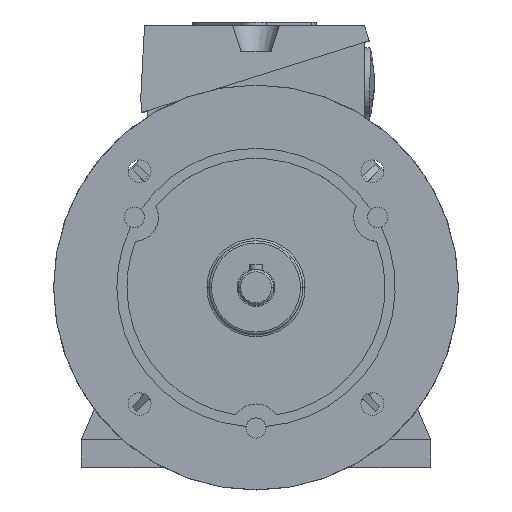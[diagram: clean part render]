
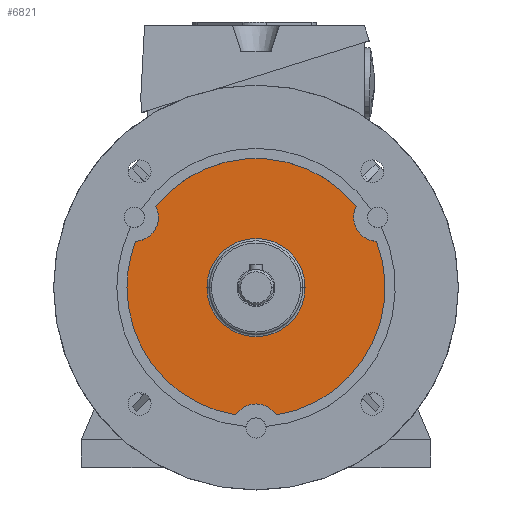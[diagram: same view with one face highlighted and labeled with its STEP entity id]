
A CAD part, top view. The second image highlights one B-rep face of the part: STEP entity #6821.
In plain terms, the highlighted planar face has unit normal (0, 0, 1).
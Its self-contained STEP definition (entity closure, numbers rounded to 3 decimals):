
#225 = AXIS2_PLACEMENT_3D ( 'NONE', #3845, #5941, #7086 ) ;
#395 = DIRECTION ( 'NONE',  ( -1., 0., 0. ) ) ;
#409 = DIRECTION ( 'NONE',  ( 0., 0., -1. ) ) ;
#434 = DIRECTION ( 'NONE',  ( 0., 0., -1. ) ) ;
#872 = ORIENTED_EDGE ( 'NONE', *, *, #7423, .F. ) ;
#996 = VERTEX_POINT ( 'NONE', #1525 ) ;
#1086 = DIRECTION ( 'NONE',  ( 1., 0., 0. ) ) ;
#1162 = AXIS2_PLACEMENT_3D ( 'NONE', #9170, #11286, #7216 ) ;
#1166 = VERTEX_POINT ( 'NONE', #2189 ) ;
#1298 = CARTESIAN_POINT ( 'NONE',  ( 0., 0., 14. ) ) ;
#1525 = CARTESIAN_POINT ( 'NONE',  ( 47.619, 18.26, 14. ) ) ;
#1542 = ORIENTED_EDGE ( 'NONE', *, *, #8120, .T. ) ;
#1582 = CIRCLE ( 'NONE', #13283, 51. ) ;
#1758 = CARTESIAN_POINT ( 'NONE',  ( -7.995, -50.369, 14. ) ) ;
#1867 = EDGE_CURVE ( 'NONE', #13340, #9865, #5189, .T. ) ;
#2189 = CARTESIAN_POINT ( 'NONE',  ( -39.623, 32.109, 14. ) ) ;
#2611 = ORIENTED_EDGE ( 'NONE', *, *, #11092, .F. ) ;
#2934 = DIRECTION ( 'NONE',  ( 0., 0., -1. ) ) ;
#3118 = CARTESIAN_POINT ( 'NONE',  ( 0., 51., 14. ) ) ;
#3393 = CARTESIAN_POINT ( 'NONE',  ( 0., 0., 14. ) ) ;
#3574 = DIRECTION ( 'NONE',  ( 1., 0., 0. ) ) ;
#3582 = AXIS2_PLACEMENT_3D ( 'NONE', #11874, #409, #9766 ) ;
#3621 = AXIS2_PLACEMENT_3D ( 'NONE', #11138, #434, #3574 ) ;
#3845 = CARTESIAN_POINT ( 'NONE',  ( 0., 0., 14. ) ) ;
#3994 = VERTEX_POINT ( 'NONE', #8232 ) ;
#4057 = CIRCLE ( 'NONE', #7718, 9.5 ) ;
#4228 = DIRECTION ( 'NONE',  ( 1., 0., 0. ) ) ;
#4236 = DIRECTION ( 'NONE',  ( 0., 0., -1. ) ) ;
#4367 = PLANE ( 'NONE',  #6216 ) ;
#4406 = DIRECTION ( 'NONE',  ( -1., 0., 0. ) ) ;
#4436 = ORIENTED_EDGE ( 'NONE', *, *, #9588, .T. ) ;
#4665 = AXIS2_PLACEMENT_3D ( 'NONE', #12167, #13260, #11085 ) ;
#4897 = EDGE_LOOP ( 'NONE', ( #8677, #7777, #4436, #6380, #2611, #872, #1542, #12049 ) ) ;
#5189 = CIRCLE ( 'NONE', #9940, 19.4 ) ;
#5264 = CARTESIAN_POINT ( 'NONE',  ( 7.995, -50.369, 14. ) ) ;
#5290 = VERTEX_POINT ( 'NONE', #10629 ) ;
#5314 = FACE_OUTER_BOUND ( 'NONE', #4897, .T. ) ;
#5321 = AXIS2_PLACEMENT_3D ( 'NONE', #13243, #2934, #7080 ) ;
#5351 = DIRECTION ( 'NONE',  ( 0., 0., -1. ) ) ;
#5511 = CARTESIAN_POINT ( 'NONE',  ( -47.619, 18.26, 14. ) ) ;
#5642 = DIRECTION ( 'NONE',  ( 0., 0., -1. ) ) ;
#5941 = DIRECTION ( 'NONE',  ( 0., 0., -1. ) ) ;
#6010 = CIRCLE ( 'NONE', #3621, 9.5 ) ;
#6216 = AXIS2_PLACEMENT_3D ( 'NONE', #3118, #10442, #4228 ) ;
#6254 = CARTESIAN_POINT ( 'NONE',  ( -48.064, 27.75, 14. ) ) ;
#6318 = FACE_BOUND ( 'NONE', #10915, .T. ) ;
#6380 = ORIENTED_EDGE ( 'NONE', *, *, #6860, .T. ) ;
#6821 = ADVANCED_FACE ( 'NONE', ( #5314, #6318 ), #4367, .T. ) ;
#6860 = EDGE_CURVE ( 'NONE', #3994, #6910, #4057, .T. ) ;
#6910 = VERTEX_POINT ( 'NONE', #5511 ) ;
#7043 = VERTEX_POINT ( 'NONE', #1758 ) ;
#7080 = DIRECTION ( 'NONE',  ( -1., 0., 0. ) ) ;
#7086 = DIRECTION ( 'NONE',  ( -1., 0., 0. ) ) ;
#7216 = DIRECTION ( 'NONE',  ( -1., 0., 0. ) ) ;
#7423 = EDGE_CURVE ( 'NONE', #7043, #10614, #7884, .T. ) ;
#7534 = EDGE_CURVE ( 'NONE', #996, #5290, #13087, .T. ) ;
#7630 = CARTESIAN_POINT ( 'NONE',  ( -19.4, 0., 14. ) ) ;
#7718 = AXIS2_PLACEMENT_3D ( 'NONE', #6254, #10377, #1086 ) ;
#7777 = ORIENTED_EDGE ( 'NONE', *, *, #9144, .F. ) ;
#7884 = CIRCLE ( 'NONE', #1162, 51. ) ;
#7953 = EDGE_CURVE ( 'NONE', #9865, #13340, #8762, .T. ) ;
#8120 = EDGE_CURVE ( 'NONE', #7043, #10886, #9402, .T. ) ;
#8232 = CARTESIAN_POINT ( 'NONE',  ( -38.564, 27.75, 14. ) ) ;
#8476 = ORIENTED_EDGE ( 'NONE', *, *, #1867, .T. ) ;
#8481 = CARTESIAN_POINT ( 'NONE',  ( 19.4, 0., 14. ) ) ;
#8677 = ORIENTED_EDGE ( 'NONE', *, *, #7534, .T. ) ;
#8762 = CIRCLE ( 'NONE', #5321, 19.4 ) ;
#9144 = EDGE_CURVE ( 'NONE', #1166, #5290, #10087, .T. ) ;
#9170 = CARTESIAN_POINT ( 'NONE',  ( 0., 0., 14. ) ) ;
#9402 = CIRCLE ( 'NONE', #3582, 9.5 ) ;
#9423 = ORIENTED_EDGE ( 'NONE', *, *, #7953, .T. ) ;
#9434 = DIRECTION ( 'NONE',  ( -1., 0., 0. ) ) ;
#9539 = CARTESIAN_POINT ( 'NONE',  ( -51., 0., 14. ) ) ;
#9588 = EDGE_CURVE ( 'NONE', #1166, #3994, #6010, .T. ) ;
#9766 = DIRECTION ( 'NONE',  ( 1., 0., 0. ) ) ;
#9865 = VERTEX_POINT ( 'NONE', #8481 ) ;
#9940 = AXIS2_PLACEMENT_3D ( 'NONE', #3393, #5642, #395 ) ;
#10087 = CIRCLE ( 'NONE', #11820, 51. ) ;
#10377 = DIRECTION ( 'NONE',  ( 0., 0., -1. ) ) ;
#10442 = DIRECTION ( 'NONE',  ( 0., 0., 1. ) ) ;
#10614 = VERTEX_POINT ( 'NONE', #9539 ) ;
#10629 = CARTESIAN_POINT ( 'NONE',  ( 39.623, 32.109, 14. ) ) ;
#10886 = VERTEX_POINT ( 'NONE', #5264 ) ;
#10915 = EDGE_LOOP ( 'NONE', ( #8476, #9423 ) ) ;
#11085 = DIRECTION ( 'NONE',  ( 1., 0., 0. ) ) ;
#11092 = EDGE_CURVE ( 'NONE', #10614, #6910, #12142, .T. ) ;
#11138 = CARTESIAN_POINT ( 'NONE',  ( -48.064, 27.75, 14. ) ) ;
#11286 = DIRECTION ( 'NONE',  ( 0., 0., -1. ) ) ;
#11304 = CARTESIAN_POINT ( 'NONE',  ( 0., 0., 14. ) ) ;
#11820 = AXIS2_PLACEMENT_3D ( 'NONE', #1298, #4236, #9434 ) ;
#11874 = CARTESIAN_POINT ( 'NONE',  ( 0., -55.5, 14. ) ) ;
#12049 = ORIENTED_EDGE ( 'NONE', *, *, #13167, .F. ) ;
#12142 = CIRCLE ( 'NONE', #225, 51. ) ;
#12167 = CARTESIAN_POINT ( 'NONE',  ( 48.064, 27.75, 14. ) ) ;
#13087 = CIRCLE ( 'NONE', #4665, 9.5 ) ;
#13167 = EDGE_CURVE ( 'NONE', #996, #10886, #1582, .T. ) ;
#13243 = CARTESIAN_POINT ( 'NONE',  ( 0., 0., 14. ) ) ;
#13260 = DIRECTION ( 'NONE',  ( 0., 0., -1. ) ) ;
#13283 = AXIS2_PLACEMENT_3D ( 'NONE', #11304, #5351, #4406 ) ;
#13340 = VERTEX_POINT ( 'NONE', #7630 ) ;
